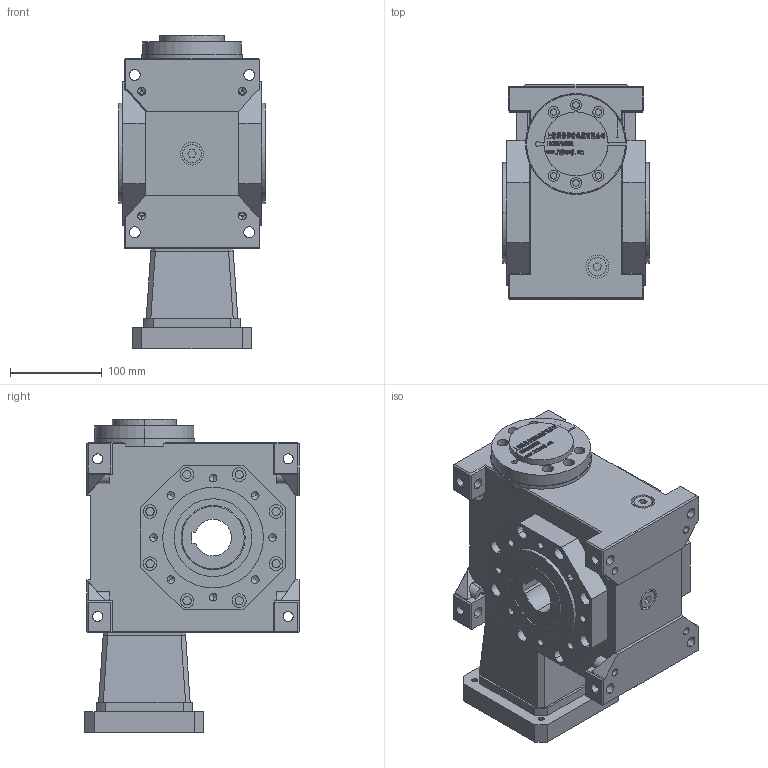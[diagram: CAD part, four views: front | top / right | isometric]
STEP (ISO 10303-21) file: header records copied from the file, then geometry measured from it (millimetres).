
FILE_DESCRIPTION (( 'STEP AP203' ), '1' );
FILE_NAME ('FXLB075-(5~90)-CR-24-110-145-M8.step', '2022-11-06T06:57:42', ( '' ), ( '' ), 'SwSTEP 2.0', 'SolidWorks 2020', '' );
FILE_SCHEMA (( 'CONFIG_CONTROL_DESIGN' ));
Length unit declared in the file: millimetre
Products named in the file (8): ______BD68-73.3-24-24____.step; ST130-110-145-M8____________.step; FXLB075-(5~90)-CR-24-110-145-M8; JDLB075-CR____.step; JDLB075-CR________40.step; FXLB075-(5~90)-CR-24-110-145-M8.step; JDLB075-ST105________1.step; 錨璃383^FXLB075-(5~90)-CR-24-110-145-M8
Assembly tree (7 placements, depth 3):
  FXLB075-(5~90)-CR-24-110-145-M8
    FXLB075-(5~90)-CR-24-110-145-M8.step
      JDLB075-CR____.step
      JDLB075-CR________40.step
      JDLB075-ST105________1.step
      ST130-110-145-M8____________.step
      ______BD68-73.3-24-24____.step
    錨璃383^FXLB075-(5~90)-CR-24-110-145-M8
Bounding box: 160 x 234 x 342.2 mm (x, y, z)
Volume: 6892676.7 mm3; surface area: 599097.6 mm2
Topology: 82 solids, 82 shells, 2690 faces, 7039 edges, 4594 vertices
Faces by surface type: plane 1546, bspline 572, cylinder 454, cone 102, torus 16
Entity records: 113098 total; most frequent: CARTESIAN_POINT 49475, ORIENTED_EDGE 13958, DIRECTION 10975, EDGE_CURVE 6979, LINE 4757, VECTOR 4757, VERTEX_POINT 4594, AXIS2_PLACEMENT_3D 3109
